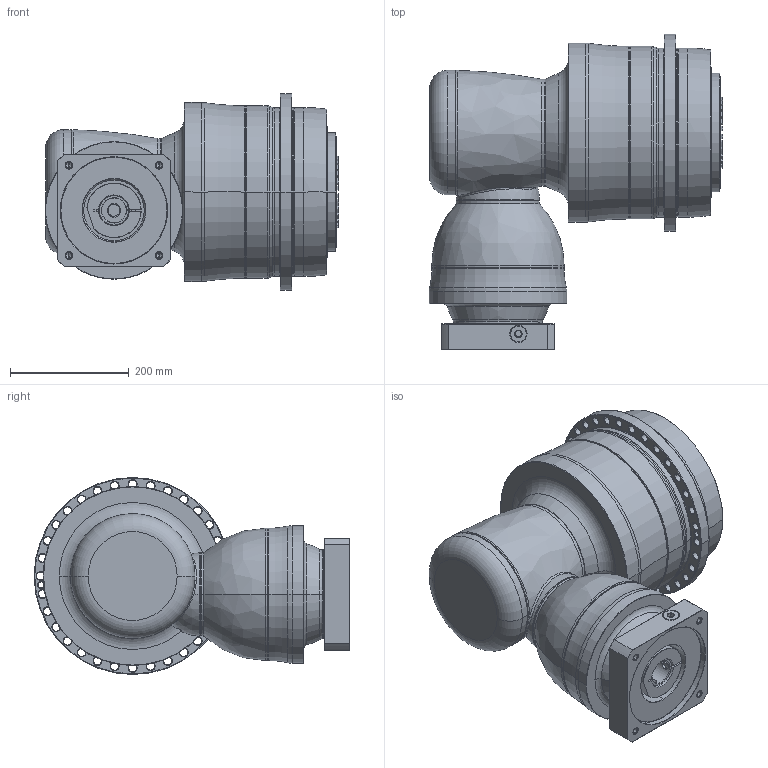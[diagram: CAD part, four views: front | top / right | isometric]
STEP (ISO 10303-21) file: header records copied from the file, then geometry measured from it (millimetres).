
FILE_DESCRIPTION((''),'2;1');
FILE_NAME('APCK285_4ST_42-P0409A00201_ASM','2018-05-17T',('d01226'),(''),'PRO/ENGINEER BY PARAMETRIC TECHNOLOGY CORPORATION, 2008410','PRO/ENGINEER BY PARAMETRIC TECHNOLOGY CORPORATION, 2008410','');
FILE_SCHEMA(('CONFIG_CONTROL_DESIGN'));
Length unit declared in the file: millimetre
Products named in the file (13): P1008600002; P1832810001; P0278801003; P03598G0103; P1211800001; P1315600001; P1007601001; P1317610501; P0409A00201; P0503A00012; P0912505001; 21711422019; APCK285_4ST_42-P0409A00201_ASM
Assembly tree (12 placements, depth 2):
  APCK285_4ST_42-P0409A00201_ASM
    P1008600002
    P1832810001
    P0278801003
    P03598G0103
    P1211800001
    P1315600001
    P1007601001
    P1317610501
    P0409A00201
    P0503A00012
    P0912505001
    21711422019
Bounding box: 495.1 x 532 x 332 mm (x, y, z)
Volume: 31680069.8 mm3; surface area: 1729128.4 mm2
Topology: 13 solids, 25 shells, 861 faces, 2063 edges, 1260 vertices
Faces by surface type: cone 286, cylinder 241, plane 155, torus 142, bspline 35, sphere 2
Entity records: 32359 total; most frequent: CARTESIAN_POINT 11835, DIRECTION 4585, ORIENTED_EDGE 4048, EDGE_CURVE 2049, AXIS2_PLACEMENT_3D 2024, VERTEX_POINT 1260, CIRCLE 1161, EDGE_LOOP 991
